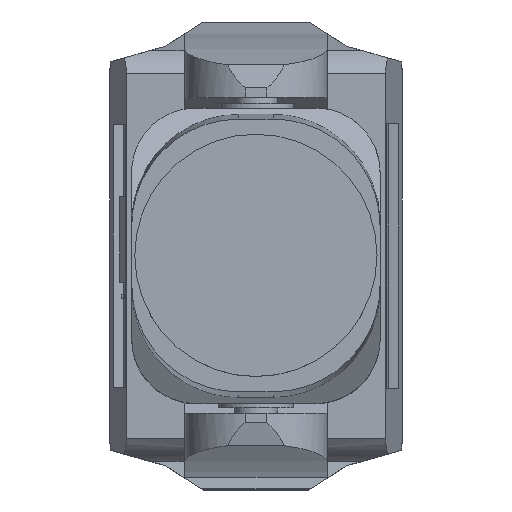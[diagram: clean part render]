
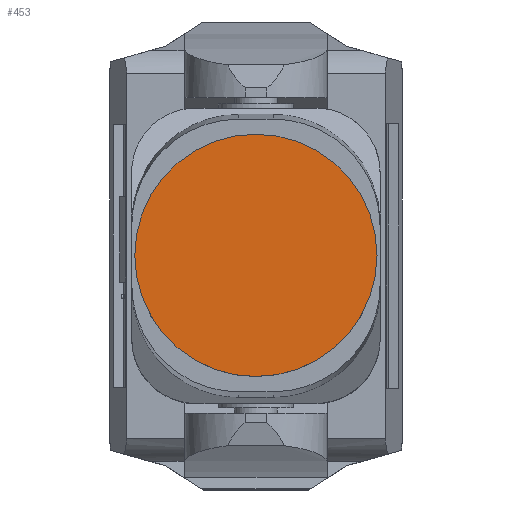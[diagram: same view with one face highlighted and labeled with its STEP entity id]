
A CAD part, top view. The second image highlights one B-rep face of the part: STEP entity #453.
In plain terms, the highlighted planar face has unit normal (0, 0, 1).
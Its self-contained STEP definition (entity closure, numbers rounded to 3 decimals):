
#453 = ADVANCED_FACE( '', ( #966 ), #967, .T. );
#966 = FACE_OUTER_BOUND( '', #1609, .T. );
#967 = PLANE( '', #1610 );
#1609 = EDGE_LOOP( '', ( #2516 ) );
#1610 = AXIS2_PLACEMENT_3D( '', #2517, #2518, #2519 );
#2516 = ORIENTED_EDGE( '', *, *, #3961, .T. );
#2517 = CARTESIAN_POINT( '', ( 130., -126.662, 678.405 ) );
#2518 = DIRECTION( '', ( 0., 0., 1. ) );
#2519 = DIRECTION( '', ( 0., -1., 0. ) );
#3961 = EDGE_CURVE( '', #4781, #4781, #4782, .T. );
#4781 = VERTEX_POINT( '', #6010 );
#4782 = CIRCLE( '', #6011, 113.175 );
#6010 = CARTESIAN_POINT( '', ( 0., -113.175, 678.405 ) );
#6011 = AXIS2_PLACEMENT_3D( '', #7082, #7083, #7084 );
#7082 = CARTESIAN_POINT( '', ( 0., 0., 678.405 ) );
#7083 = DIRECTION( '', ( 0., 0., 1. ) );
#7084 = DIRECTION( '', ( 0., -1., 0. ) );
